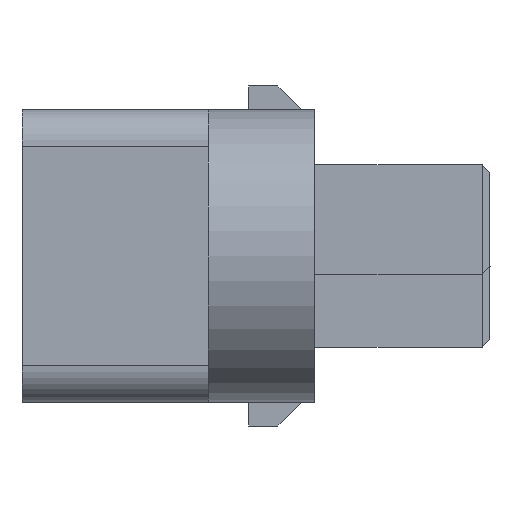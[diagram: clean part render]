
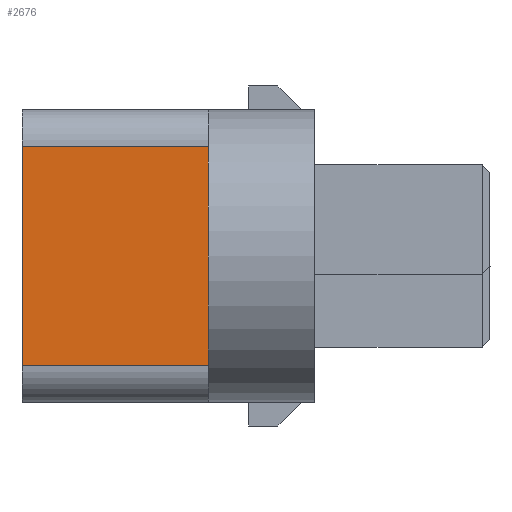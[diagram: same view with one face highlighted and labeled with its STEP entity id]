
A CAD part, left-side view. The second image highlights one B-rep face of the part: STEP entity #2676.
In plain terms, the highlighted planar face has unit normal (-1, 0, 0).
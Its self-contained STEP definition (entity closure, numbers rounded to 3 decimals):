
#2676=ADVANCED_FACE('53',(#3962),#3345,.T.);
#3345=PLANE('',#15129);
#3962=FACE_OUTER_BOUND('',#4688,.T.);
#4688=EDGE_LOOP('',(#6420,#6421,#6422,#6423));
#6420=ORIENTED_EDGE('',*,*,#10874,.F.);
#6421=ORIENTED_EDGE('',*,*,#10875,.F.);
#6422=ORIENTED_EDGE('',*,*,#10870,.T.);
#6423=ORIENTED_EDGE('',*,*,#10876,.T.);
#9421=VERTEX_POINT('',#20843);
#9422=VERTEX_POINT('',#20844);
#9425=VERTEX_POINT('',#20852);
#9426=VERTEX_POINT('',#20853);
#10870=EDGE_CURVE('',#9421,#9422,#12560,.T.);
#10874=EDGE_CURVE('',#9425,#9426,#12562,.T.);
#10875=EDGE_CURVE('',#9421,#9425,#12563,.T.);
#10876=EDGE_CURVE('',#9422,#9426,#12564,.T.);
#12560=LINE('',#20842,#13992);
#12562=LINE('',#20851,#13994);
#12563=LINE('',#20854,#13995);
#12564=LINE('',#20855,#13996);
#13992=VECTOR('',#16913,1.);
#13994=VECTOR('',#16921,1.);
#13995=VECTOR('',#16922,1.);
#13996=VECTOR('',#16923,1.);
#15129=AXIS2_PLACEMENT_3D('',#20856,#16924,#16925);
#16913=DIRECTION('',(0.,-1.,0.));
#16921=DIRECTION('',(0.,-1.,0.));
#16922=DIRECTION('',(0.,0.,1.));
#16923=DIRECTION('',(0.,0.,1.));
#16924=DIRECTION('',(-1.,0.,0.));
#16925=DIRECTION('',(0.,0.,1.));
#20842=CARTESIAN_POINT('',(-17.5,8.,-3.));
#20843=CARTESIAN_POINT('',(-17.5,8.,-3.));
#20844=CARTESIAN_POINT('',(-17.5,2.9,-3.));
#20851=CARTESIAN_POINT('',(-17.5,8.,3.));
#20852=CARTESIAN_POINT('',(-17.5,8.,3.));
#20853=CARTESIAN_POINT('',(-17.5,2.9,3.));
#20854=CARTESIAN_POINT('',(-17.5,8.,-3.));
#20855=CARTESIAN_POINT('',(-17.5,2.9,-3.));
#20856=CARTESIAN_POINT('',(-17.5,0.,-4.));
